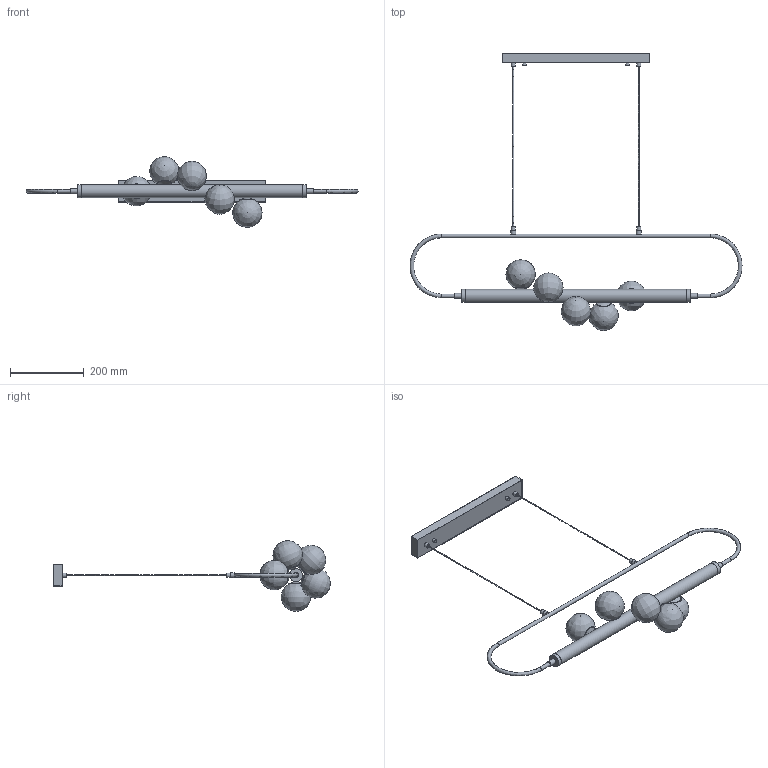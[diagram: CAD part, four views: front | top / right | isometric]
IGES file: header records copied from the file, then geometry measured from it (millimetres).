
Global section: file name: Modern Zeta Chandelier-3D-90cm; native system: AutoCAD 2022 - 简体中文 (Simplified Chinese),62HAuto; preprocessor: desk Translation Framework DWG producer (atf_dwg_producer); organization: unknown; date: 20241122.102023; units: millimetre
Bounding box: 900 x 751.61 x 192.59 mm (x, y, z)
Volume: 882435.7 mm3; surface area: 430307.1 mm2
Topology: 27 solids, 32 shells, 88 faces, 124 edges, 86 vertices
Faces by surface type: bspline 88
